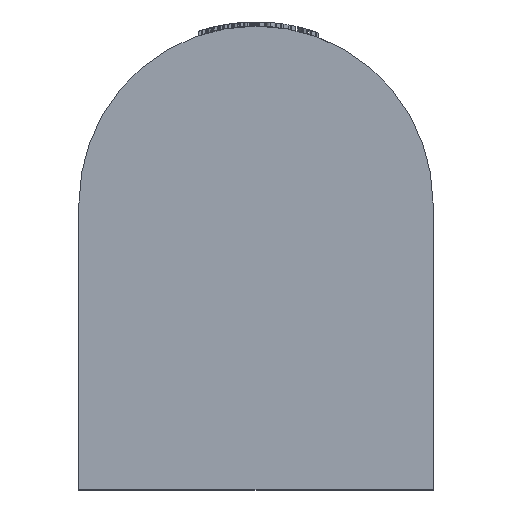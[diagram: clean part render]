
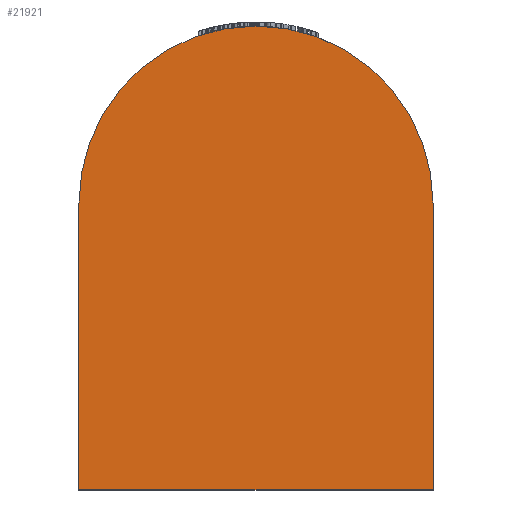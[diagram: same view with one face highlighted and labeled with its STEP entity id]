
A CAD part, top view. The second image highlights one B-rep face of the part: STEP entity #21921.
In plain terms, the highlighted planar face has unit normal (0, 0, 1).
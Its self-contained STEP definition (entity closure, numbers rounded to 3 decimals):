
#2986=LINE('',#47178,#4566);
#2987=LINE('',#47182,#4567);
#2988=LINE('',#47183,#4568);
#4566=VECTOR('',#28005,10.);
#4567=VECTOR('',#28008,10.);
#4568=VECTOR('',#28009,10.);
#5957=FACE_OUTER_BOUND('',#7244,.T.);
#7244=EDGE_LOOP('',(#18725,#18726,#18727,#18728));
#7872=CIRCLE('',#23578,42.);
#9790=VERTEX_POINT('',#47176);
#9791=VERTEX_POINT('',#47177);
#9792=VERTEX_POINT('',#47179);
#9793=VERTEX_POINT('',#47181);
#12846=EDGE_CURVE('',#9790,#9791,#2986,.T.);
#12847=EDGE_CURVE('',#9792,#9790,#7872,.T.);
#12848=EDGE_CURVE('',#9793,#9792,#2987,.T.);
#12849=EDGE_CURVE('',#9791,#9793,#2988,.T.);
#18725=ORIENTED_EDGE('',*,*,#12846,.F.);
#18726=ORIENTED_EDGE('',*,*,#12847,.F.);
#18727=ORIENTED_EDGE('',*,*,#12848,.F.);
#18728=ORIENTED_EDGE('',*,*,#12849,.F.);
#20564=PLANE('',#23577);
#21921=ADVANCED_FACE('',(#5957),#20564,.T.);
#23577=AXIS2_PLACEMENT_3D('',#47175,#28003,#28004);
#23578=AXIS2_PLACEMENT_3D('',#47180,#28006,#28007);
#28003=DIRECTION('center_axis',(0.,0.,1.));
#28004=DIRECTION('ref_axis',(1.,0.,0.));
#28005=DIRECTION('',(0.,-1.,0.));
#28006=DIRECTION('center_axis',(0.,0.,-1.));
#28007=DIRECTION('ref_axis',(-1.,0.,0.));
#28008=DIRECTION('',(0.,1.,0.));
#28009=DIRECTION('',(-1.,0.,0.));
#47175=CARTESIAN_POINT('Origin',(0.,47.67,
49.));
#47176=CARTESIAN_POINT('',(42.,68.,49.));
#47177=CARTESIAN_POINT('',(42.,0.,49.));
#47178=CARTESIAN_POINT('',(42.,68.,49.));
#47179=CARTESIAN_POINT('',(-42.,68.,49.));
#47180=CARTESIAN_POINT('Origin',(0.,68.,49.));
#47181=CARTESIAN_POINT('',(-42.,0.,49.));
#47182=CARTESIAN_POINT('',(-42.,0.,49.));
#47183=CARTESIAN_POINT('',(42.,0.,49.));
